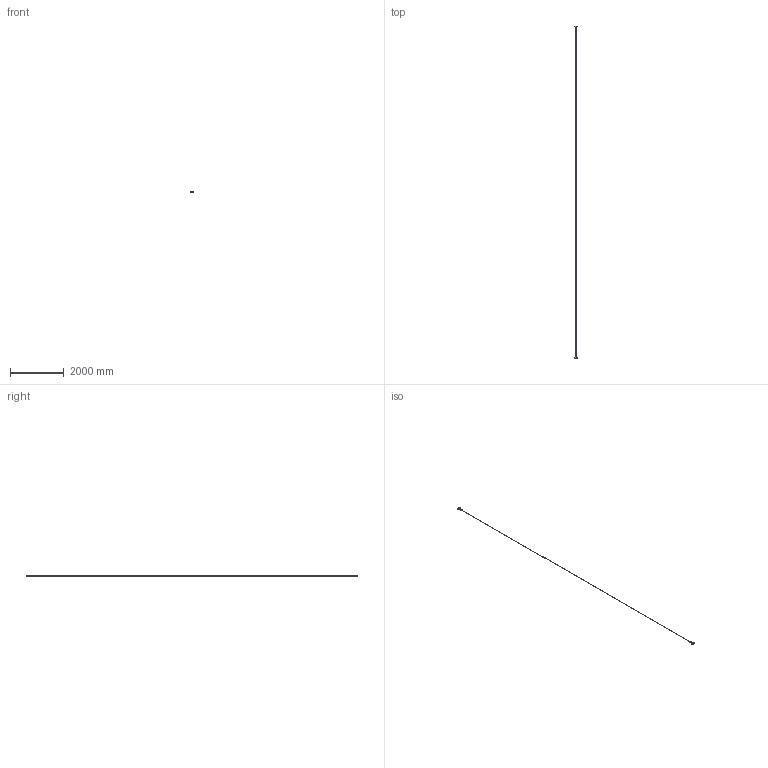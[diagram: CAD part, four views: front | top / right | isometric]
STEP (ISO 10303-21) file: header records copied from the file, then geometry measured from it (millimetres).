
FILE_DESCRIPTION(/* description */ (''),/* implementation_level */ '2;1');
FILE_NAME(/* name */ 'UTOPIA 12.stp',/* time_stamp */ '2025-02-27T17:37:16+01:00',/* author */ ('n.bisotti'),/* organization */ (''),/* preprocessor_version */ 'ST-DEVELOPER v19.2',/* originating_system */ 'Autodesk Inventor 2023',/* authorisation */ '');
FILE_SCHEMA (('AUTOMOTIVE_DESIGN { 1 0 10303 214 3 1 1 }'));
Length unit declared in the file: millimetre
Products named in the file (1): Parte2
Bounding box: 90 x 12400 x 53 mm (x, y, z)
Volume: 320880.3 mm3; surface area: 456436.8 mm2
Topology: 21 solids, 21 shells, 576 faces, 1372 edges, 839 vertices
Faces by surface type: plane 374, cylinder 173, cone 29
Full cylindrical faces by diameter (mm): 2.459 x4, 3.242 x12, 3.5 x2, 6.647 x2, 7 x2, 8 x4, 15 x2
Entity records: 17023 total; most frequent: DIRECTION 2856, CARTESIAN_POINT 2833, ORIENTED_EDGE 2706, EDGE_CURVE 1353, LINE 980, VECTOR 980, AXIS2_PLACEMENT_3D 938, VERTEX_POINT 838
